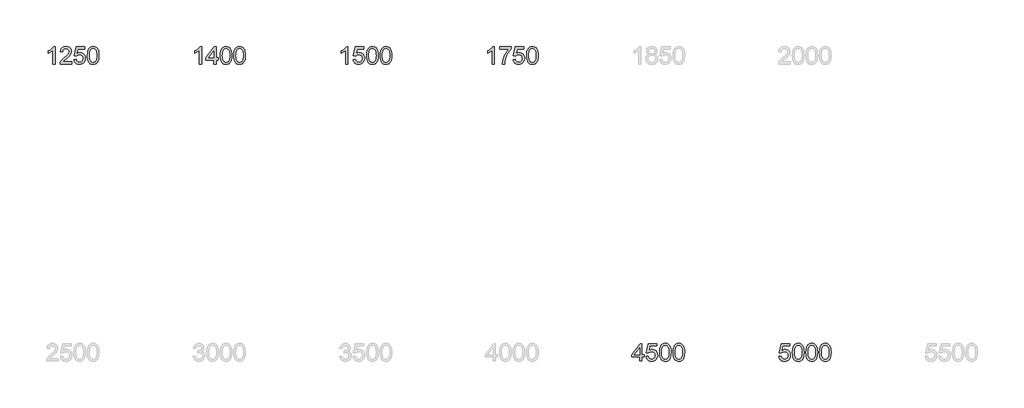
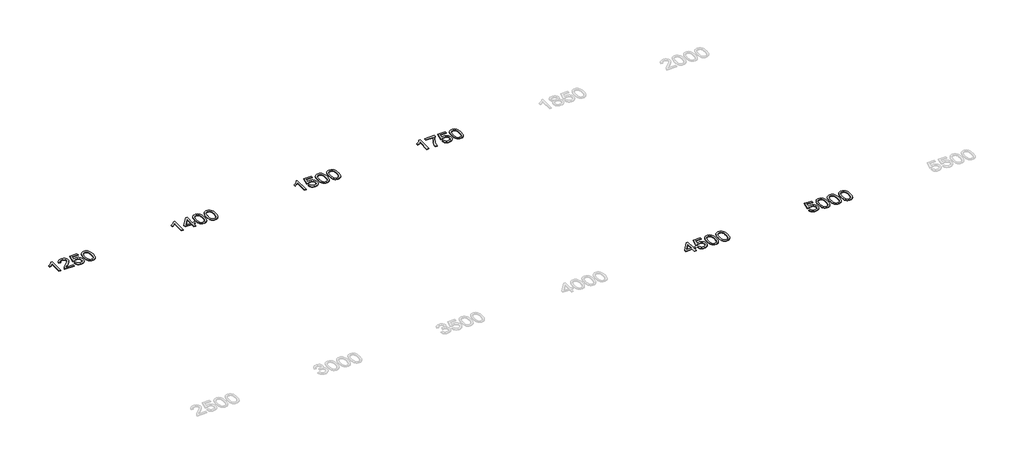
# One storey, part 2 of 8: 6 proxies.
"""IFC4 building model written with IfcOpenShell, lengths in millimetres."""

from ifc_helpers import new_model, si_unit, origin, origin_with_axes, place, context, project, spatial, polyline, outline, extrude, element, save

model = new_model("IFC4")

# Units and contexts
model_context = context("Model", 3, world=origin())
ifc_project = project(units=[si_unit("LENGTHUNIT", "METRE", prefix="MILLI")], contexts=[model_context])

# Site, building, storey
site = spatial("IfcSite", under=ifc_project)
building = spatial("IfcBuilding", under=site)
storey = spatial("IfcBuildingStorey", under=building, Name="Этаж 01", Elevation=0.0)

# Proxies
placement = place(None, origin())
element("IfcBuildingElementProxy", 1, Name="600 мм Arial", ObjectType="600 мм Arial", at=placement, inside=storey, context=model_context, shape_type="SweptSolid", body=[
    extrude(outline(polyline([(-27002.7378609, -23695.8930971), (-27078.0800935, -23695.8930971), (-27078.0800935, -23226.1813657), (-27109.5340041, -23251.6204057), (-27149.4492006, -23277.0226574), (-27191.3509598, -23299.2243358), (-27228.7645587, -23315.0616557), (-27228.7645587, -23243.8397015), (-27169.5907398, -23211.6500269), (-27118.3263838, -23173.3535112), (-27077.9145466, -23132.6289743), (-27051.2982843, -23093.1552362), (-27002.7378609, -23093.1552362), (-27002.7378609, -23695.8930971)])), origin_with_axes(), (0.0, 0.0, 1.0), 20.0),
    extrude(outline(polyline([(-26437.6711163, -23620.5508645), (-26437.6711163, -23695.8930971), (-26833.2178375, -23695.8930971), (-26831.5623685, -23669.3688053), (-26825.1244336, -23643.9481594), (-26806.5463929, -23603.3523813), (-26779.3599134, -23563.9706137), (-26740.0333281, -23522.7494361), (-26685.0349699, -23476.635428), (-26603.7330489, -23404.4201924), (-26554.9518964, -23351.1140913), (-26540.7240602, -23329.3354771), (-26530.5613201, -23307.8511686), (-26524.463676, -23286.6611657), (-26522.431128, -23265.7654684), (-26524.3487129, -23246.1067743), (-26530.1014676, -23228.0391698), (-26539.6893921, -23211.5626549), (-26553.1124864, -23196.6772297), (-26569.6257895, -23184.3485843), (-26588.4843402, -23175.5424091), (-26609.6881387, -23170.2587039), (-26633.2371849, -23168.4974689), (-26658.046227, -23170.2173172), (-26680.2341098, -23175.3768622), (-26699.8008334, -23183.9761038), (-26716.7463978, -23196.0150421), (-26730.4546007, -23211.0890068), (-26740.3092396, -23228.7933279), (-26746.3103147, -23249.1280051), (-26748.4578258, -23272.0930387), (-26823.8000584, -23262.6752596), (-26817.3207368, -23223.7809357), (-26805.5347174, -23189.7978364), (-26788.4420002, -23160.7259617), (-26766.0425852, -23136.5653117), (-26738.8515072, -23117.5734037), (-26707.3838011, -23104.0077551), (-26671.6394667, -23095.868366), (-26631.6185042, -23093.1552362), (-26591.2388567, -23096.1718686), (-26555.3013843, -23105.2217657), (-26523.806087, -23120.3049275), (-26496.7529647, -23141.421354), (-26475.0249344, -23167.0075468), (-26459.5049127, -23195.5000073), (-26450.1928997, -23226.8987356), (-26447.0888954, -23261.2037316), (-26450.4366215, -23297.2377731), (-26460.4798, -23332.6464151), (-26478.3036827, -23368.6620624), (-26504.9935214, -23406.5171197), (-26547.5390742, -23451.7114228), (-26612.9300988, -23509.7448076), (-26699.6030969, -23582.2175606), (-26733.5953932, -23620.5508645), (-26437.6711163, -23620.5508645)])), origin_with_axes(), (0.0, 0.0, 1.0), 20.0),
    extrude(outline(polyline([(-26362.3288837, -23535.7908528), (-26286.9866511, -23526.3730738), (-26281.3580566, -23550.5935046), (-26273.1542881, -23571.6041651), (-26262.3753456, -23589.4050551), (-26249.0212292, -23603.9961747), (-26233.1195299, -23615.3591299), (-26214.697839, -23623.4755264), (-26193.7561565, -23628.3453643), (-26170.2944822, -23629.9686436), (-26141.5996866, -23627.7107679), (-26116.2894053, -23620.9371406), (-26094.3636384, -23609.6477619), (-26075.8223859, -23593.8426317), (-26061.0795149, -23574.3034992), (-26050.5488928, -23551.8121137), (-26044.2305195, -23526.3684752), (-26042.1243951, -23497.9725837), (-26044.0971623, -23471.1355922), (-26050.0154639, -23447.2784448), (-26059.8792999, -23426.4011416), (-26073.6886703, -23408.5036825), (-26091.4895603, -23394.1470876), (-26113.3279553, -23383.892377), (-26139.2038551, -23377.7395507), (-26169.1172598, -23375.6886085), (-26205.666336, -23378.9627583), (-26235.2624426, -23388.7852076), (-26258.8988608, -23403.8315812), (-26277.568872, -23422.7775039), (-26352.9111046, -23413.3597248), (-26286.9866511, -23102.5730153), (-25995.0354997, -23102.5730153), (-25995.0354997, -23177.9152479), (-26226.0653927, -23177.9152479), (-26258.2918555, -23343.9036042), (-26231.7031843, -23324.8473168), (-26204.4707196, -23311.235683), (-26176.5944614, -23303.0687027), (-26148.0744097, -23300.3463759), (-26111.3827792, -23303.7216932), (-26077.6801899, -23313.8476451), (-26046.9666419, -23330.7242317), (-26019.242135, -23354.3514528), (-25996.290897, -23383.2853717), (-25979.8971556, -23416.0820516), (-25970.0609108, -23452.7414924), (-25966.7821625, -23493.2636942), (-25969.7344155, -23532.2959739), (-25978.5911745, -23568.6059268), (-25993.3524396, -23602.193553), (-26014.0182107, -23633.0588524), (-26045.3249685, -23664.6691128), (-26081.8556506, -23687.2478703), (-26123.610257, -23700.7951247), (-26170.5887878, -23705.3108762), (-26209.4693162, -23702.409207), (-26244.5882511, -23693.7041993), (-26275.9455927, -23679.1958531), (-26303.5413409, -23658.8841684), (-26326.5017759, -23633.7808208), (-26343.953178, -23604.8974856), (-26355.8955473, -23572.234163), (-26362.3288837, -23535.7908528)])), origin_with_axes(), (0.0, 0.0, 1.0), 20.0),
    extrude(outline(polyline([(-25900.8577089, -23399.380209), (-25895.3210849, -23302.9031558), (-25888.4003049, -23261.9900794), (-25878.7112128, -23225.9606365), (-25866.2951955, -23194.5205215), (-25851.1936396, -23167.3754288), (-25833.4065451, -23144.5253583), (-25812.9339121, -23125.9703102), (-25789.7067626, -23111.6137153), (-25763.6561188, -23101.3590047), (-25734.7819807, -23095.2061784), (-25703.0843483, -23093.1552362), (-25656.6576405, -23098.0112786), (-25615.0869751, -23112.5794056), (-25580.3221265, -23136.2894002), (-25554.3128695, -23168.5710453), (-25534.6679709, -23209.1484293), (-25518.996198, -23257.7456409), (-25508.7322903, -23319.4578456), (-25505.3109877, -23399.380209), (-25510.7924295, -23495.3054393), (-25517.6442316, -23536.0805599), (-25527.2367546, -23572.0640176), (-25539.556203, -23603.5179281), (-25554.588781, -23630.7044076), (-25572.3344887, -23653.6234559), (-25592.7933262, -23672.275073), (-25616.0480668, -23686.7282369), (-25642.181484, -23697.0519254), (-25671.1935779, -23703.2461385), (-25703.0843483, -23705.3108762), (-25744.5814374, -23701.7240268), (-25781.3696369, -23690.9634784), (-25813.4489469, -23673.0292311), (-25840.8193673, -23647.921285), (-25867.0861418, -23602.5338438), (-25885.8481235, -23545.9811841), (-25897.1053126, -23478.2633058), (-25900.8577089, -23399.380209)]), holes=[polyline([(-25825.5154763, -23399.2330562), (-25823.3081844, -23464.7298469), (-25816.6863084, -23517.746241), (-25805.6498486, -23558.2822383), (-25790.1988048, -23586.337839), (-25771.5103994, -23605.426316), (-25750.7618549, -23619.0609424), (-25727.9531712, -23627.2417183), (-25703.0843483, -23629.9686436), (-25678.2155255, -23627.2325213), (-25655.4068418, -23619.0241542), (-25634.6582972, -23605.3435426), (-25615.9698919, -23586.1906862), (-25600.5188481, -23558.0891003), (-25589.4823882, -23517.5623), (-25582.8605123, -23464.6102853), (-25580.6532203, -23399.2330562), (-25582.7869359, -23335.4699094), (-25589.1880826, -23283.3870159), (-25599.8566605, -23242.9843758), (-25614.7926695, -23214.2619891), (-25633.1683752, -23194.2400115), (-25654.156043, -23179.9385989), (-25677.755673, -23171.3577514), (-25703.9672651, -23168.4974689), (-25728.7073293, -23171.0174605), (-25751.1297369, -23178.5774355), (-25771.2344879, -23191.1773939), (-25789.0215824, -23208.8173355), (-25804.987661, -23240.0873051), (-25816.3920029, -23282.2465818), (-25823.234608, -23335.2951655), (-25825.5154763, -23399.2330562)])]), origin_with_axes(), (0.0, 0.0, 1.0), 20.0),
])
element("IfcBuildingElementProxy", 2, Name="600 мм Arial", ObjectType="600 мм Arial", at=placement, inside=storey, context=model_context, shape_type="SweptSolid", body=[
    extrude(outline(polyline([(-22002.7378609, -23695.8930971), (-22078.0800935, -23695.8930971), (-22078.0800935, -23226.1813657), (-22109.5340041, -23251.6204057), (-22149.4492006, -23277.0226574), (-22191.3509598, -23299.2243358), (-22228.7645587, -23315.0616557), (-22228.7645587, -23243.8397015), (-22169.5907398, -23211.6500269), (-22118.3263838, -23173.3535112), (-22077.9145466, -23132.6289743), (-22051.2982843, -23093.1552362), (-22002.7378609, -23093.1552362), (-22002.7378609, -23695.8930971)])), origin_with_axes(), (0.0, 0.0, 1.0), 20.0),
    extrude(outline(polyline([(-21578.9378025, -23695.8930971), (-21578.9378025, -23554.626411), (-21852.0533957, -23554.626411), (-21852.0533957, -23479.2841784), (-21560.1022443, -23102.5730153), (-21503.5955698, -23102.5730153), (-21503.5955698, -23479.2841784), (-21428.2533372, -23479.2841784), (-21428.2533372, -23554.626411), (-21503.5955698, -23554.626411), (-21503.5955698, -23695.8930971), (-21578.9378025, -23695.8930971)]), holes=[polyline([(-21578.9378025, -23479.2841784), (-21578.9378025, -23246.4884518), (-21759.3471329, -23479.2841784), (-21578.9378025, -23479.2841784)])]), origin_with_axes(), (0.0, 0.0, 1.0), 20.0),
    extrude(outline(polyline([(-21362.3288837, -23399.380209), (-21356.7922597, -23302.9031558), (-21349.8714796, -23261.9900794), (-21340.1823876, -23225.9606365), (-21327.7663702, -23194.5205215), (-21312.6648143, -23167.3754288), (-21294.8777199, -23144.5253583), (-21274.4050868, -23125.9703102), (-21251.1779374, -23111.6137153), (-21225.1272936, -23101.3590047), (-21196.2531555, -23095.2061784), (-21164.5555231, -23093.1552362), (-21118.1288153, -23098.0112786), (-21076.5581498, -23112.5794056), (-21041.7933013, -23136.2894002), (-21015.7840442, -23168.5710453), (-20996.1391457, -23209.1484293), (-20980.4673727, -23257.7456409), (-20970.203465, -23319.4578456), (-20966.7821625, -23399.380209), (-20972.2636042, -23495.3054393), (-20979.1154064, -23536.0805599), (-20988.7079294, -23572.0640176), (-21001.0273777, -23603.5179281), (-21016.0599557, -23630.7044076), (-21033.8056635, -23653.6234559), (-21054.2645009, -23672.275073), (-21077.5192416, -23686.7282369), (-21103.6526588, -23697.0519254), (-21132.6647526, -23703.2461385), (-21164.5555231, -23705.3108762), (-21206.0526121, -23701.7240268), (-21242.8408117, -23690.9634784), (-21274.9201216, -23673.0292311), (-21302.2905421, -23647.921285), (-21328.5573165, -23602.5338438), (-21347.3192983, -23545.9811841), (-21358.5764873, -23478.2633058), (-21362.3288837, -23399.380209)]), holes=[polyline([(-21286.9866511, -23399.2330562), (-21284.7793591, -23464.7298469), (-21278.1574832, -23517.746241), (-21267.1210233, -23558.2822383), (-21251.6699795, -23586.337839), (-21232.9815742, -23605.426316), (-21212.2330297, -23619.0609424), (-21189.424346, -23627.2417183), (-21164.5555231, -23629.9686436), (-21139.6867002, -23627.2325213), (-21116.8780165, -23619.0241542), (-21096.129472, -23605.3435426), (-21077.4410666, -23586.1906862), (-21061.9900228, -23558.0891003), (-21050.953563, -23517.5623), (-21044.3316871, -23464.6102853), (-21042.1243951, -23399.2330562), (-21044.2581107, -23335.4699094), (-21050.6592574, -23283.3870159), (-21061.3278352, -23242.9843758), (-21076.2638442, -23214.2619891), (-21094.6395499, -23194.2400115), (-21115.6272177, -23179.9385989), (-21139.2268477, -23171.3577514), (-21165.4384399, -23168.4974689), (-21190.1785041, -23171.0174605), (-21212.6009117, -23178.5774355), (-21232.7056627, -23191.1773939), (-21250.4927572, -23208.8173355), (-21266.4588358, -23240.0873051), (-21277.8631776, -23282.2465818), (-21284.7057827, -23335.2951655), (-21286.9866511, -23399.2330562)])]), origin_with_axes(), (0.0, 0.0, 1.0), 20.0),
    extrude(outline(polyline([(-20900.8577089, -23399.380209), (-20895.3210849, -23302.9031558), (-20888.4003049, -23261.9900794), (-20878.7112128, -23225.9606365), (-20866.2951955, -23194.5205215), (-20851.1936396, -23167.3754288), (-20833.4065451, -23144.5253583), (-20812.9339121, -23125.9703102), (-20789.7067626, -23111.6137153), (-20763.6561188, -23101.3590047), (-20734.7819807, -23095.2061784), (-20703.0843483, -23093.1552362), (-20656.6576405, -23098.0112786), (-20615.0869751, -23112.5794056), (-20580.3221265, -23136.2894002), (-20554.3128695, -23168.5710453), (-20534.6679709, -23209.1484293), (-20518.996198, -23257.7456409), (-20508.7322903, -23319.4578456), (-20505.3109877, -23399.380209), (-20510.7924295, -23495.3054393), (-20517.6442316, -23536.0805599), (-20527.2367546, -23572.0640176), (-20539.556203, -23603.5179281), (-20554.588781, -23630.7044076), (-20572.3344887, -23653.6234559), (-20592.7933262, -23672.275073), (-20616.0480668, -23686.7282369), (-20642.181484, -23697.0519254), (-20671.1935779, -23703.2461385), (-20703.0843483, -23705.3108762), (-20744.5814374, -23701.7240268), (-20781.3696369, -23690.9634784), (-20813.4489469, -23673.0292311), (-20840.8193673, -23647.921285), (-20867.0861418, -23602.5338438), (-20885.8481235, -23545.9811841), (-20897.1053126, -23478.2633058), (-20900.8577089, -23399.380209)]), holes=[polyline([(-20825.5154763, -23399.2330562), (-20823.3081844, -23464.7298469), (-20816.6863084, -23517.746241), (-20805.6498486, -23558.2822383), (-20790.1988048, -23586.337839), (-20771.5103994, -23605.426316), (-20750.7618549, -23619.0609424), (-20727.9531712, -23627.2417183), (-20703.0843483, -23629.9686436), (-20678.2155255, -23627.2325213), (-20655.4068418, -23619.0241542), (-20634.6582972, -23605.3435426), (-20615.9698919, -23586.1906862), (-20600.5188481, -23558.0891003), (-20589.4823882, -23517.5623), (-20582.8605123, -23464.6102853), (-20580.6532203, -23399.2330562), (-20582.7869359, -23335.4699094), (-20589.1880826, -23283.3870159), (-20599.8566605, -23242.9843758), (-20614.7926695, -23214.2619891), (-20633.1683752, -23194.2400115), (-20654.156043, -23179.9385989), (-20677.755673, -23171.3577514), (-20703.9672651, -23168.4974689), (-20728.7073293, -23171.0174605), (-20751.1297369, -23178.5774355), (-20771.2344879, -23191.1773939), (-20789.0215824, -23208.8173355), (-20804.987661, -23240.0873051), (-20816.3920029, -23282.2465818), (-20823.234608, -23335.2951655), (-20825.5154763, -23399.2330562)])]), origin_with_axes(), (0.0, 0.0, 1.0), 20.0),
])
element("IfcBuildingElementProxy", 3, Name="600 мм Arial", ObjectType="600 мм Arial", at=placement, inside=storey, context=model_context, shape_type="SweptSolid", body=[
    extrude(outline(polyline([(-17002.7378609, -23695.8930971), (-17078.0800935, -23695.8930971), (-17078.0800935, -23226.1813657), (-17109.5340041, -23251.6204057), (-17149.4492006, -23277.0226574), (-17191.3509598, -23299.2243358), (-17228.7645587, -23315.0616557), (-17228.7645587, -23243.8397015), (-17169.5907398, -23211.6500269), (-17118.3263838, -23173.3535112), (-17077.9145466, -23132.6289743), (-17051.2982843, -23093.1552362), (-17002.7378609, -23093.1552362), (-17002.7378609, -23695.8930971)])), origin_with_axes(), (0.0, 0.0, 1.0), 20.0),
    extrude(outline(polyline([(-16823.8000584, -23535.7908528), (-16748.4578258, -23526.3730738), (-16742.8292313, -23550.5935046), (-16734.6254628, -23571.6041651), (-16723.8465204, -23589.4050551), (-16710.4924039, -23603.9961747), (-16694.5907047, -23615.3591299), (-16676.1690138, -23623.4755264), (-16655.2273312, -23628.3453643), (-16631.765657, -23629.9686436), (-16603.0708613, -23627.7107679), (-16577.7605801, -23620.9371406), (-16555.8348132, -23609.6477619), (-16537.2935606, -23593.8426317), (-16522.5506896, -23574.3034992), (-16512.0200675, -23551.8121137), (-16505.7016943, -23526.3684752), (-16503.5955698, -23497.9725837), (-16505.568337, -23471.1355922), (-16511.4866386, -23447.2784448), (-16521.3504746, -23426.4011416), (-16535.159845, -23408.5036825), (-16552.9607351, -23394.1470876), (-16574.79913, -23383.892377), (-16600.6750298, -23377.7395507), (-16630.5884346, -23375.6886085), (-16667.1375108, -23378.9627583), (-16696.7336173, -23388.7852076), (-16720.3700355, -23403.8315812), (-16739.0400468, -23422.7775039), (-16814.3822794, -23413.3597248), (-16748.4578258, -23102.5730153), (-16456.5066745, -23102.5730153), (-16456.5066745, -23177.9152479), (-16687.5365674, -23177.9152479), (-16719.7630302, -23343.9036042), (-16693.174359, -23324.8473168), (-16665.9418943, -23311.235683), (-16638.0656361, -23303.0687027), (-16609.5455845, -23300.3463759), (-16572.853954, -23303.7216932), (-16539.1513647, -23313.8476451), (-16508.4378166, -23330.7242317), (-16480.7133097, -23354.3514528), (-16457.7620718, -23383.2853717), (-16441.3683304, -23416.0820516), (-16431.5320855, -23452.7414924), (-16428.2533372, -23493.2636942), (-16431.2055902, -23532.2959739), (-16440.0623493, -23568.6059268), (-16454.8236143, -23602.193553), (-16475.4893854, -23633.0588524), (-16506.7961432, -23664.6691128), (-16543.3268253, -23687.2478703), (-16585.0814318, -23700.7951247), (-16632.0599626, -23705.3108762), (-16670.9404909, -23702.409207), (-16706.0594259, -23693.7041993), (-16737.4167675, -23679.1958531), (-16765.0125156, -23658.8841684), (-16787.9729506, -23633.7808208), (-16805.4243528, -23604.8974856), (-16817.3667221, -23572.234163), (-16823.8000584, -23535.7908528)])), origin_with_axes(), (0.0, 0.0, 1.0), 20.0),
    extrude(outline(polyline([(-16362.3288837, -23399.380209), (-16356.7922597, -23302.9031558), (-16349.8714796, -23261.9900794), (-16340.1823876, -23225.9606365), (-16327.7663702, -23194.5205215), (-16312.6648143, -23167.3754288), (-16294.8777199, -23144.5253583), (-16274.4050868, -23125.9703102), (-16251.1779374, -23111.6137153), (-16225.1272936, -23101.3590047), (-16196.2531555, -23095.2061784), (-16164.5555231, -23093.1552362), (-16118.1288153, -23098.0112786), (-16076.5581498, -23112.5794056), (-16041.7933013, -23136.2894002), (-16015.7840442, -23168.5710453), (-15996.1391457, -23209.1484293), (-15980.4673727, -23257.7456409), (-15970.203465, -23319.4578456), (-15966.7821625, -23399.380209), (-15972.2636042, -23495.3054393), (-15979.1154064, -23536.0805599), (-15988.7079294, -23572.0640176), (-16001.0273777, -23603.5179281), (-16016.0599557, -23630.7044076), (-16033.8056635, -23653.6234559), (-16054.2645009, -23672.275073), (-16077.5192416, -23686.7282369), (-16103.6526588, -23697.0519254), (-16132.6647526, -23703.2461385), (-16164.5555231, -23705.3108762), (-16206.0526121, -23701.7240268), (-16242.8408117, -23690.9634784), (-16274.9201216, -23673.0292311), (-16302.2905421, -23647.921285), (-16328.5573165, -23602.5338438), (-16347.3192983, -23545.9811841), (-16358.5764873, -23478.2633058), (-16362.3288837, -23399.380209)]), holes=[polyline([(-16286.9866511, -23399.2330562), (-16284.7793591, -23464.7298469), (-16278.1574832, -23517.746241), (-16267.1210233, -23558.2822383), (-16251.6699795, -23586.337839), (-16232.9815742, -23605.426316), (-16212.2330297, -23619.0609424), (-16189.424346, -23627.2417183), (-16164.5555231, -23629.9686436), (-16139.6867002, -23627.2325213), (-16116.8780165, -23619.0241542), (-16096.129472, -23605.3435426), (-16077.4410666, -23586.1906862), (-16061.9900228, -23558.0891003), (-16050.953563, -23517.5623), (-16044.3316871, -23464.6102853), (-16042.1243951, -23399.2330562), (-16044.2581107, -23335.4699094), (-16050.6592574, -23283.3870159), (-16061.3278352, -23242.9843758), (-16076.2638442, -23214.2619891), (-16094.6395499, -23194.2400115), (-16115.6272177, -23179.9385989), (-16139.2268477, -23171.3577514), (-16165.4384399, -23168.4974689), (-16190.1785041, -23171.0174605), (-16212.6009117, -23178.5774355), (-16232.7056627, -23191.1773939), (-16250.4927572, -23208.8173355), (-16266.4588358, -23240.0873051), (-16277.8631776, -23282.2465818), (-16284.7057827, -23335.2951655), (-16286.9866511, -23399.2330562)])]), origin_with_axes(), (0.0, 0.0, 1.0), 20.0),
    extrude(outline(polyline([(-15900.8577089, -23399.380209), (-15895.3210849, -23302.9031558), (-15888.4003049, -23261.9900794), (-15878.7112128, -23225.9606365), (-15866.2951955, -23194.5205215), (-15851.1936396, -23167.3754288), (-15833.4065451, -23144.5253583), (-15812.9339121, -23125.9703102), (-15789.7067626, -23111.6137153), (-15763.6561188, -23101.3590047), (-15734.7819807, -23095.2061784), (-15703.0843483, -23093.1552362), (-15656.6576405, -23098.0112786), (-15615.0869751, -23112.5794056), (-15580.3221265, -23136.2894002), (-15554.3128695, -23168.5710453), (-15534.6679709, -23209.1484293), (-15518.996198, -23257.7456409), (-15508.7322903, -23319.4578456), (-15505.3109877, -23399.380209), (-15510.7924295, -23495.3054393), (-15517.6442316, -23536.0805599), (-15527.2367546, -23572.0640176), (-15539.556203, -23603.5179281), (-15554.588781, -23630.7044076), (-15572.3344887, -23653.6234559), (-15592.7933262, -23672.275073), (-15616.0480668, -23686.7282369), (-15642.181484, -23697.0519254), (-15671.1935779, -23703.2461385), (-15703.0843483, -23705.3108762), (-15744.5814374, -23701.7240268), (-15781.3696369, -23690.9634784), (-15813.4489469, -23673.0292311), (-15840.8193673, -23647.921285), (-15867.0861418, -23602.5338438), (-15885.8481235, -23545.9811841), (-15897.1053126, -23478.2633058), (-15900.8577089, -23399.380209)]), holes=[polyline([(-15825.5154763, -23399.2330562), (-15823.3081844, -23464.7298469), (-15816.6863084, -23517.746241), (-15805.6498486, -23558.2822383), (-15790.1988048, -23586.337839), (-15771.5103994, -23605.426316), (-15750.7618549, -23619.0609424), (-15727.9531712, -23627.2417183), (-15703.0843483, -23629.9686436), (-15678.2155255, -23627.2325213), (-15655.4068418, -23619.0241542), (-15634.6582972, -23605.3435426), (-15615.9698919, -23586.1906862), (-15600.5188481, -23558.0891003), (-15589.4823882, -23517.5623), (-15582.8605123, -23464.6102853), (-15580.6532203, -23399.2330562), (-15582.7869359, -23335.4699094), (-15589.1880826, -23283.3870159), (-15599.8566605, -23242.9843758), (-15614.7926695, -23214.2619891), (-15633.1683752, -23194.2400115), (-15654.156043, -23179.9385989), (-15677.755673, -23171.3577514), (-15703.9672651, -23168.4974689), (-15728.7073293, -23171.0174605), (-15751.1297369, -23178.5774355), (-15771.2344879, -23191.1773939), (-15789.0215824, -23208.8173355), (-15804.987661, -23240.0873051), (-15816.3920029, -23282.2465818), (-15823.234608, -23335.2951655), (-15825.5154763, -23399.2330562)])]), origin_with_axes(), (0.0, 0.0, 1.0), 20.0),
])
element("IfcBuildingElementProxy", 4, Name="600 мм Arial", ObjectType="600 мм Arial", at=placement, inside=storey, context=model_context, shape_type="SweptSolid", body=[
    extrude(outline(polyline([(-12002.7378609, -23695.8930971), (-12078.0800935, -23695.8930971), (-12078.0800935, -23226.1813657), (-12109.5340041, -23251.6204057), (-12149.4492006, -23277.0226574), (-12191.3509598, -23299.2243358), (-12228.7645587, -23315.0616557), (-12228.7645587, -23243.8397015), (-12169.5907398, -23211.6500269), (-12118.3263838, -23173.3535112), (-12077.9145466, -23132.6289743), (-12051.2982843, -23093.1552362), (-12002.7378609, -23093.1552362), (-12002.7378609, -23695.8930971)])), origin_with_axes(), (0.0, 0.0, 1.0), 20.0),
    extrude(outline(polyline([(-11823.8000584, -23177.9152479), (-11823.8000584, -23102.5730153), (-11428.2533372, -23102.5730153), (-11428.2533372, -23163.4942737), (-11484.631253, -23234.8449867), (-11540.4573458, -23325.5830808), (-11589.6983508, -23427.4312112), (-11609.5869712, -23479.4175356), (-11626.3210034, -23532.1120329), (-11644.2736448, -23610.4341097), (-11654.2800351, -23695.8930971), (-11729.6222677, -23695.8930971), (-11721.4736815, -23618.233208), (-11699.6766733, -23525.9316154), (-11683.8071637, -23476.5664501), (-11664.8198542, -23428.0933987), (-11642.7147448, -23380.5124612), (-11617.4918355, -23333.8236375), (-11562.2359599, -23248.6037733), (-11503.5955698, -23177.9152479), (-11823.8000584, -23177.9152479)])), origin_with_axes(), (0.0, 0.0, 1.0), 20.0),
    extrude(outline(polyline([(-11362.3288837, -23535.7908528), (-11286.9866511, -23526.3730738), (-11281.3580566, -23550.5935046), (-11273.1542881, -23571.6041651), (-11262.3753456, -23589.4050551), (-11249.0212292, -23603.9961747), (-11233.1195299, -23615.3591299), (-11214.697839, -23623.4755264), (-11193.7561565, -23628.3453643), (-11170.2944822, -23629.9686436), (-11141.5996866, -23627.7107679), (-11116.2894053, -23620.9371406), (-11094.3636384, -23609.6477619), (-11075.8223859, -23593.8426317), (-11061.0795149, -23574.3034992), (-11050.5488928, -23551.8121137), (-11044.2305195, -23526.3684752), (-11042.1243951, -23497.9725837), (-11044.0971623, -23471.1355922), (-11050.0154639, -23447.2784448), (-11059.8792999, -23426.4011416), (-11073.6886703, -23408.5036825), (-11091.4895603, -23394.1470876), (-11113.3279553, -23383.892377), (-11139.2038551, -23377.7395507), (-11169.1172598, -23375.6886085), (-11205.666336, -23378.9627583), (-11235.2624426, -23388.7852076), (-11258.8988608, -23403.8315812), (-11277.568872, -23422.7775039), (-11352.9111046, -23413.3597248), (-11286.9866511, -23102.5730153), (-10995.0354997, -23102.5730153), (-10995.0354997, -23177.9152479), (-11226.0653927, -23177.9152479), (-11258.2918555, -23343.9036042), (-11231.7031843, -23324.8473168), (-11204.4707196, -23311.235683), (-11176.5944614, -23303.0687027), (-11148.0744097, -23300.3463759), (-11111.3827792, -23303.7216932), (-11077.6801899, -23313.8476451), (-11046.9666419, -23330.7242317), (-11019.242135, -23354.3514528), (-10996.290897, -23383.2853717), (-10979.8971556, -23416.0820516), (-10970.0609108, -23452.7414924), (-10966.7821625, -23493.2636942), (-10969.7344155, -23532.2959739), (-10978.5911745, -23568.6059268), (-10993.3524396, -23602.193553), (-11014.0182107, -23633.0588524), (-11045.3249685, -23664.6691128), (-11081.8556506, -23687.2478703), (-11123.610257, -23700.7951247), (-11170.5887878, -23705.3108762), (-11209.4693162, -23702.409207), (-11244.5882511, -23693.7041993), (-11275.9455927, -23679.1958531), (-11303.5413409, -23658.8841684), (-11326.5017759, -23633.7808208), (-11343.953178, -23604.8974856), (-11355.8955473, -23572.234163), (-11362.3288837, -23535.7908528)])), origin_with_axes(), (0.0, 0.0, 1.0), 20.0),
    extrude(outline(polyline([(-10900.8577089, -23399.380209), (-10895.3210849, -23302.9031558), (-10888.4003049, -23261.9900794), (-10878.7112128, -23225.9606365), (-10866.2951955, -23194.5205215), (-10851.1936396, -23167.3754288), (-10833.4065451, -23144.5253583), (-10812.9339121, -23125.9703102), (-10789.7067626, -23111.6137153), (-10763.6561188, -23101.3590047), (-10734.7819807, -23095.2061784), (-10703.0843483, -23093.1552362), (-10656.6576405, -23098.0112786), (-10615.0869751, -23112.5794056), (-10580.3221265, -23136.2894002), (-10554.3128695, -23168.5710453), (-10534.6679709, -23209.1484293), (-10518.996198, -23257.7456409), (-10508.7322903, -23319.4578456), (-10505.3109877, -23399.380209), (-10510.7924295, -23495.3054393), (-10517.6442316, -23536.0805599), (-10527.2367546, -23572.0640176), (-10539.556203, -23603.5179281), (-10554.588781, -23630.7044076), (-10572.3344887, -23653.6234559), (-10592.7933262, -23672.275073), (-10616.0480668, -23686.7282369), (-10642.181484, -23697.0519254), (-10671.1935779, -23703.2461385), (-10703.0843483, -23705.3108762), (-10744.5814374, -23701.7240268), (-10781.3696369, -23690.9634784), (-10813.4489469, -23673.0292311), (-10840.8193673, -23647.921285), (-10867.0861418, -23602.5338438), (-10885.8481235, -23545.9811841), (-10897.1053126, -23478.2633058), (-10900.8577089, -23399.380209)]), holes=[polyline([(-10825.5154763, -23399.2330562), (-10823.3081844, -23464.7298469), (-10816.6863084, -23517.746241), (-10805.6498486, -23558.2822383), (-10790.1988048, -23586.337839), (-10771.5103994, -23605.426316), (-10750.7618549, -23619.0609424), (-10727.9531712, -23627.2417183), (-10703.0843483, -23629.9686436), (-10678.2155255, -23627.2325213), (-10655.4068418, -23619.0241542), (-10634.6582972, -23605.3435426), (-10615.9698919, -23586.1906862), (-10600.5188481, -23558.0891003), (-10589.4823882, -23517.5623), (-10582.8605123, -23464.6102853), (-10580.6532203, -23399.2330562), (-10582.7869359, -23335.4699094), (-10589.1880826, -23283.3870159), (-10599.8566605, -23242.9843758), (-10614.7926695, -23214.2619891), (-10633.1683752, -23194.2400115), (-10654.156043, -23179.9385989), (-10677.755673, -23171.3577514), (-10703.9672651, -23168.4974689), (-10728.7073293, -23171.0174605), (-10751.1297369, -23178.5774355), (-10771.2344879, -23191.1773939), (-10789.0215824, -23208.8173355), (-10804.987661, -23240.0873051), (-10816.3920029, -23282.2465818), (-10823.234608, -23335.2951655), (-10825.5154763, -23399.2330562)])]), origin_with_axes(), (0.0, 0.0, 1.0), 20.0),
])
element("IfcBuildingElementProxy", 5, Name="600 мм Arial", ObjectType="600 мм Arial", at=placement, inside=storey, context=model_context, shape_type="SweptSolid", body=[
    extrude(outline(polyline([(-7040.4089772, -33848.3691069), (-7040.4089772, -33707.1024208), (-7313.5245704, -33707.1024208), (-7313.5245704, -33631.7601882), (-7021.5734191, -33255.0490251), (-6965.0667446, -33255.0490251), (-6965.0667446, -33631.7601882), (-6889.724512, -33631.7601882), (-6889.724512, -33707.1024208), (-6965.0667446, -33707.1024208), (-6965.0667446, -33848.3691069), (-7040.4089772, -33848.3691069)]), holes=[polyline([(-7040.4089772, -33631.7601882), (-7040.4089772, -33398.9644616), (-7220.8183076, -33631.7601882), (-7040.4089772, -33631.7601882)])]), origin_with_axes(), (0.0, 0.0, 1.0), 20.0),
    extrude(outline(polyline([(-6823.8000584, -33688.2668626), (-6748.4578258, -33678.8490835), (-6742.8292313, -33703.0695144), (-6734.6254628, -33724.0801749), (-6723.8465204, -33741.8810649), (-6710.4924039, -33756.4721845), (-6694.5907047, -33767.8351397), (-6676.1690138, -33775.9515362), (-6655.2273312, -33780.8213741), (-6631.765657, -33782.4446534), (-6603.0708613, -33780.1867776), (-6577.7605801, -33773.4131504), (-6555.8348132, -33762.1237717), (-6537.2935606, -33746.3186415), (-6522.5506896, -33726.779509), (-6512.0200675, -33704.2881235), (-6505.7016943, -33678.844485), (-6503.5955698, -33650.4485935), (-6505.568337, -33623.611602), (-6511.4866386, -33599.7544546), (-6521.3504746, -33578.8771514), (-6535.159845, -33560.9796923), (-6552.9607351, -33546.6230974), (-6574.79913, -33536.3683868), (-6600.6750298, -33530.2155604), (-6630.5884346, -33528.1646183), (-6667.1375108, -33531.4387681), (-6696.7336173, -33541.2612174), (-6720.3700355, -33556.307591), (-6739.0400468, -33575.2535137), (-6814.3822794, -33565.8357346), (-6748.4578258, -33255.0490251), (-6456.5066745, -33255.0490251), (-6456.5066745, -33330.3912577), (-6687.5365674, -33330.3912577), (-6719.7630302, -33496.3796139), (-6693.174359, -33477.3233266), (-6665.9418943, -33463.7116928), (-6638.0656361, -33455.5447125), (-6609.5455845, -33452.8223857), (-6572.853954, -33456.197703), (-6539.1513647, -33466.3236549), (-6508.4378166, -33483.2002415), (-6480.7133097, -33506.8274626), (-6457.7620718, -33535.7613815), (-6441.3683304, -33568.5580614), (-6431.5320855, -33605.2175022), (-6428.2533372, -33645.739704), (-6431.2055902, -33684.7719837), (-6440.0623493, -33721.0819366), (-6454.8236143, -33754.6695628), (-6475.4893854, -33785.5348622), (-6506.7961432, -33817.1451226), (-6543.3268253, -33839.72388), (-6585.0814318, -33853.2711345), (-6632.0599626, -33857.786886), (-6670.9404909, -33854.8852168), (-6706.0594259, -33846.1802091), (-6737.4167675, -33831.6718629), (-6765.0125156, -33811.3601782), (-6787.9729506, -33786.2568306), (-6805.4243528, -33757.3734954), (-6817.3667221, -33724.7101728), (-6823.8000584, -33688.2668626)])), origin_with_axes(), (0.0, 0.0, 1.0), 20.0),
    extrude(outline(polyline([(-6362.3288837, -33551.8562188), (-6356.7922597, -33455.3791656), (-6349.8714796, -33414.4660892), (-6340.1823876, -33378.4366463), (-6327.7663702, -33346.9965313), (-6312.6648143, -33319.8514386), (-6294.8777199, -33297.0013681), (-6274.4050868, -33278.44632), (-6251.1779374, -33264.0897251), (-6225.1272936, -33253.8350145), (-6196.2531555, -33247.6821882), (-6164.5555231, -33245.631246), (-6118.1288153, -33250.4872884), (-6076.5581498, -33265.0554154), (-6041.7933013, -33288.76541), (-6015.7840442, -33321.047055), (-5996.1391457, -33361.6244391), (-5980.4673727, -33410.2216507), (-5970.203465, -33471.9338554), (-5966.7821625, -33551.8562188), (-5972.2636042, -33647.7814491), (-5979.1154064, -33688.5565697), (-5988.7079294, -33724.5400273), (-6001.0273777, -33755.9939379), (-6016.0599557, -33783.1804174), (-6033.8056635, -33806.0994657), (-6054.2645009, -33824.7510828), (-6077.5192416, -33839.2042467), (-6103.6526588, -33849.5279352), (-6132.6647526, -33855.7221483), (-6164.5555231, -33857.786886), (-6206.0526121, -33854.2000365), (-6242.8408117, -33843.4394882), (-6274.9201216, -33825.5052409), (-6302.2905421, -33800.3972948), (-6328.5573165, -33755.0098536), (-6347.3192983, -33698.4571939), (-6358.5764873, -33630.7393156), (-6362.3288837, -33551.8562188)]), holes=[polyline([(-6286.9866511, -33551.709066), (-6284.7793591, -33617.2058567), (-6278.1574832, -33670.2222508), (-6267.1210233, -33710.7582481), (-6251.6699795, -33738.8138488), (-6232.9815742, -33757.9023258), (-6212.2330297, -33771.5369522), (-6189.424346, -33779.7177281), (-6164.5555231, -33782.4446534), (-6139.6867002, -33779.7085311), (-6116.8780165, -33771.500164), (-6096.129472, -33757.8195523), (-6077.4410666, -33738.666696), (-6061.9900228, -33710.5651101), (-6050.953563, -33670.0383098), (-6044.3316871, -33617.0862951), (-6042.1243951, -33551.709066), (-6044.2581107, -33487.9459192), (-6050.6592574, -33435.8630257), (-6061.3278352, -33395.4603856), (-6076.2638442, -33366.7379988), (-6094.6395499, -33346.7160213), (-6115.6272177, -33332.4146087), (-6139.2268477, -33323.8337612), (-6165.4384399, -33320.9734786), (-6190.1785041, -33323.4934703), (-6212.6009117, -33331.0534453), (-6232.7056627, -33343.6534036), (-6250.4927572, -33361.2933453), (-6266.4588358, -33392.5633149), (-6277.8631776, -33434.7225915), (-6284.7057827, -33487.7711753), (-6286.9866511, -33551.709066)])]), origin_with_axes(), (0.0, 0.0, 1.0), 20.0),
    extrude(outline(polyline([(-5900.8577089, -33551.8562188), (-5895.3210849, -33455.3791656), (-5888.4003049, -33414.4660892), (-5878.7112128, -33378.4366463), (-5866.2951955, -33346.9965313), (-5851.1936396, -33319.8514386), (-5833.4065451, -33297.0013681), (-5812.9339121, -33278.44632), (-5789.7067626, -33264.0897251), (-5763.6561188, -33253.8350145), (-5734.7819807, -33247.6821882), (-5703.0843483, -33245.631246), (-5656.6576405, -33250.4872884), (-5615.0869751, -33265.0554154), (-5580.3221265, -33288.76541), (-5554.3128695, -33321.047055), (-5534.6679709, -33361.6244391), (-5518.996198, -33410.2216507), (-5508.7322903, -33471.9338554), (-5505.3109877, -33551.8562188), (-5510.7924295, -33647.7814491), (-5517.6442316, -33688.5565697), (-5527.2367546, -33724.5400273), (-5539.556203, -33755.9939379), (-5554.588781, -33783.1804174), (-5572.3344887, -33806.0994657), (-5592.7933262, -33824.7510828), (-5616.0480668, -33839.2042467), (-5642.181484, -33849.5279352), (-5671.1935779, -33855.7221483), (-5703.0843483, -33857.786886), (-5744.5814374, -33854.2000365), (-5781.3696369, -33843.4394882), (-5813.4489469, -33825.5052409), (-5840.8193673, -33800.3972948), (-5867.0861418, -33755.0098536), (-5885.8481235, -33698.4571939), (-5897.1053126, -33630.7393156), (-5900.8577089, -33551.8562188)]), holes=[polyline([(-5825.5154763, -33551.709066), (-5823.3081844, -33617.2058567), (-5816.6863084, -33670.2222508), (-5805.6498486, -33710.7582481), (-5790.1988048, -33738.8138488), (-5771.5103994, -33757.9023258), (-5750.7618549, -33771.5369522), (-5727.9531712, -33779.7177281), (-5703.0843483, -33782.4446534), (-5678.2155255, -33779.7085311), (-5655.4068418, -33771.500164), (-5634.6582972, -33757.8195523), (-5615.9698919, -33738.666696), (-5600.5188481, -33710.5651101), (-5589.4823882, -33670.0383098), (-5582.8605123, -33617.0862951), (-5580.6532203, -33551.709066), (-5582.7869359, -33487.9459192), (-5589.1880826, -33435.8630257), (-5599.8566605, -33395.4603856), (-5614.7926695, -33366.7379988), (-5633.1683752, -33346.7160213), (-5654.156043, -33332.4146087), (-5677.755673, -33323.8337612), (-5703.9672651, -33320.9734786), (-5728.7073293, -33323.4934703), (-5751.1297369, -33331.0534453), (-5771.2344879, -33343.6534036), (-5789.0215824, -33361.2933453), (-5804.987661, -33392.5633149), (-5816.3920029, -33434.7225915), (-5823.234608, -33487.7711753), (-5825.5154763, -33551.709066)])]), origin_with_axes(), (0.0, 0.0, 1.0), 20.0),
])
element("IfcBuildingElementProxy", 6, Name="600 мм Arial", ObjectType="600 мм Arial", at=placement, inside=storey, context=model_context, shape_type="SweptSolid", body=[
    extrude(outline(polyline([(-2285.2712332, -33688.2668626), (-2209.9290006, -33678.8490835), (-2204.3004061, -33703.0695144), (-2196.0966376, -33724.0801749), (-2185.3176951, -33741.8810649), (-2171.9635787, -33756.4721845), (-2156.0618794, -33767.8351397), (-2137.6401885, -33775.9515362), (-2116.698506, -33780.8213741), (-2093.2368317, -33782.4446534), (-2064.5420361, -33780.1867776), (-2039.2317548, -33773.4131504), (-2017.3059879, -33762.1237717), (-1998.7647353, -33746.3186415), (-1984.0218644, -33726.779509), (-1973.4912423, -33704.2881235), (-1967.172869, -33678.844485), (-1965.0667446, -33650.4485935), (-1967.0395118, -33623.611602), (-1972.9578134, -33599.7544546), (-1982.8216494, -33578.8771514), (-1996.6310198, -33560.9796923), (-2014.4319098, -33546.6230974), (-2036.2703048, -33536.3683868), (-2062.1462046, -33530.2155604), (-2092.0596093, -33528.1646183), (-2128.6086855, -33531.4387681), (-2158.2047921, -33541.2612174), (-2181.8412102, -33556.307591), (-2200.5112215, -33575.2535137), (-2275.8534541, -33565.8357346), (-2209.9290006, -33255.0490251), (-1917.9778492, -33255.0490251), (-1917.9778492, -33330.3912577), (-2149.0077422, -33330.3912577), (-2181.234205, -33496.3796139), (-2154.6455338, -33477.3233266), (-2127.4130691, -33463.7116928), (-2099.5368109, -33455.5447125), (-2071.0167592, -33452.8223857), (-2034.3251287, -33456.197703), (-2000.6225394, -33466.3236549), (-1969.9089914, -33483.2002415), (-1942.1844845, -33506.8274626), (-1919.2332465, -33535.7613815), (-1902.8395051, -33568.5580614), (-1893.0032603, -33605.2175022), (-1889.724512, -33645.739704), (-1892.676765, -33684.7719837), (-1901.533524, -33721.0819366), (-1916.2947891, -33754.6695628), (-1936.9605602, -33785.5348622), (-1968.2673179, -33817.1451226), (-2004.7980001, -33839.72388), (-2046.5526065, -33853.2711345), (-2093.5311373, -33857.786886), (-2132.4116657, -33854.8852168), (-2167.5306006, -33846.1802091), (-2198.8879422, -33831.6718629), (-2226.4836904, -33811.3601782), (-2249.4441254, -33786.2568306), (-2266.8955275, -33757.3734954), (-2278.8378968, -33724.7101728), (-2285.2712332, -33688.2668626)])), origin_with_axes(), (0.0, 0.0, 1.0), 20.0),
    extrude(outline(polyline([(-1823.8000584, -33551.8562188), (-1818.2634344, -33455.3791656), (-1811.3426544, -33414.4660892), (-1801.6535623, -33378.4366463), (-1789.237545, -33346.9965313), (-1774.1359891, -33319.8514386), (-1756.3488946, -33297.0013681), (-1735.8762616, -33278.44632), (-1712.6491121, -33264.0897251), (-1686.5984683, -33253.8350145), (-1657.7243302, -33247.6821882), (-1626.0266978, -33245.631246), (-1579.59999, -33250.4872884), (-1538.0293246, -33265.0554154), (-1503.264476, -33288.76541), (-1477.255219, -33321.047055), (-1457.6103204, -33361.6244391), (-1441.9385475, -33410.2216507), (-1431.6746398, -33471.9338554), (-1428.2533372, -33551.8562188), (-1433.734779, -33647.7814491), (-1440.5865811, -33688.5565697), (-1450.1791041, -33724.5400273), (-1462.4985525, -33755.9939379), (-1477.5311305, -33783.1804174), (-1495.2768382, -33806.0994657), (-1515.7356757, -33824.7510828), (-1538.9904163, -33839.2042467), (-1565.1238335, -33849.5279352), (-1594.1359274, -33855.7221483), (-1626.0266978, -33857.786886), (-1667.5237869, -33854.2000365), (-1704.3119864, -33843.4394882), (-1736.3912964, -33825.5052409), (-1763.7617168, -33800.3972948), (-1790.0284913, -33755.0098536), (-1808.790473, -33698.4571939), (-1820.0476621, -33630.7393156), (-1823.8000584, -33551.8562188)]), holes=[polyline([(-1748.4578258, -33551.709066), (-1746.2505339, -33617.2058567), (-1739.6286579, -33670.2222508), (-1728.5921981, -33710.7582481), (-1713.1411543, -33738.8138488), (-1694.4527489, -33757.9023258), (-1673.7042044, -33771.5369522), (-1650.8955207, -33779.7177281), (-1626.0266978, -33782.4446534), (-1601.157875, -33779.7085311), (-1578.3491913, -33771.500164), (-1557.6006467, -33757.8195523), (-1538.9122414, -33738.666696), (-1523.4611976, -33710.5651101), (-1512.4247377, -33670.0383098), (-1505.8028618, -33617.0862951), (-1503.5955698, -33551.709066), (-1505.7292854, -33487.9459192), (-1512.1304321, -33435.8630257), (-1522.79901, -33395.4603856), (-1537.735019, -33366.7379988), (-1556.1107247, -33346.7160213), (-1577.0983925, -33332.4146087), (-1600.6980225, -33323.8337612), (-1626.9096146, -33320.9734786), (-1651.6496788, -33323.4934703), (-1674.0720864, -33331.0534453), (-1694.1768374, -33343.6534036), (-1711.9639319, -33361.2933453), (-1727.9300105, -33392.5633149), (-1739.3343524, -33434.7225915), (-1746.1769575, -33487.7711753), (-1748.4578258, -33551.709066)])]), origin_with_axes(), (0.0, 0.0, 1.0), 20.0),
    extrude(outline(polyline([(-1362.3288837, -33551.8562188), (-1356.7922597, -33455.3791656), (-1349.8714796, -33414.4660892), (-1340.1823876, -33378.4366463), (-1327.7663702, -33346.9965313), (-1312.6648143, -33319.8514386), (-1294.8777199, -33297.0013681), (-1274.4050868, -33278.44632), (-1251.1779374, -33264.0897251), (-1225.1272936, -33253.8350145), (-1196.2531555, -33247.6821882), (-1164.5555231, -33245.631246), (-1118.1288153, -33250.4872884), (-1076.5581498, -33265.0554154), (-1041.7933013, -33288.76541), (-1015.7840442, -33321.047055), (-996.1391457, -33361.6244391), (-980.4673727, -33410.2216507), (-970.203465, -33471.9338554), (-966.7821625, -33551.8562188), (-972.2636042, -33647.7814491), (-979.1154064, -33688.5565697), (-988.7079294, -33724.5400273), (-1001.0273777, -33755.9939379), (-1016.0599557, -33783.1804174), (-1033.8056635, -33806.0994657), (-1054.2645009, -33824.7510828), (-1077.5192416, -33839.2042467), (-1103.6526588, -33849.5279352), (-1132.6647526, -33855.7221483), (-1164.5555231, -33857.786886), (-1206.0526121, -33854.2000365), (-1242.8408117, -33843.4394882), (-1274.9201216, -33825.5052409), (-1302.2905421, -33800.3972948), (-1328.5573165, -33755.0098536), (-1347.3192983, -33698.4571939), (-1358.5764873, -33630.7393156), (-1362.3288837, -33551.8562188)]), holes=[polyline([(-1286.9866511, -33551.709066), (-1284.7793591, -33617.2058567), (-1278.1574832, -33670.2222508), (-1267.1210233, -33710.7582481), (-1251.6699795, -33738.8138488), (-1232.9815742, -33757.9023258), (-1212.2330297, -33771.5369522), (-1189.424346, -33779.7177281), (-1164.5555231, -33782.4446534), (-1139.6867002, -33779.7085311), (-1116.8780165, -33771.500164), (-1096.129472, -33757.8195523), (-1077.4410666, -33738.666696), (-1061.9900228, -33710.5651101), (-1050.953563, -33670.0383098), (-1044.3316871, -33617.0862951), (-1042.1243951, -33551.709066), (-1044.2581107, -33487.9459192), (-1050.6592574, -33435.8630257), (-1061.3278352, -33395.4603856), (-1076.2638442, -33366.7379988), (-1094.6395499, -33346.7160213), (-1115.6272177, -33332.4146087), (-1139.2268477, -33323.8337612), (-1165.4384399, -33320.9734786), (-1190.1785041, -33323.4934703), (-1212.6009117, -33331.0534453), (-1232.7056627, -33343.6534036), (-1250.4927572, -33361.2933453), (-1266.4588358, -33392.5633149), (-1277.8631776, -33434.7225915), (-1284.7057827, -33487.7711753), (-1286.9866511, -33551.709066)])]), origin_with_axes(), (0.0, 0.0, 1.0), 20.0),
    extrude(outline(polyline([(-900.8577089, -33551.8562188), (-895.3210849, -33455.3791656), (-888.4003049, -33414.4660892), (-878.7112128, -33378.4366463), (-866.2951955, -33346.9965313), (-851.1936396, -33319.8514386), (-833.4065451, -33297.0013681), (-812.9339121, -33278.44632), (-789.7067626, -33264.0897251), (-763.6561188, -33253.8350145), (-734.7819807, -33247.6821882), (-703.0843483, -33245.631246), (-656.6576405, -33250.4872884), (-615.0869751, -33265.0554154), (-580.3221265, -33288.76541), (-554.3128695, -33321.047055), (-534.6679709, -33361.6244391), (-518.996198, -33410.2216507), (-508.7322903, -33471.9338554), (-505.3109877, -33551.8562188), (-510.7924295, -33647.7814491), (-517.6442316, -33688.5565697), (-527.2367546, -33724.5400273), (-539.556203, -33755.9939379), (-554.588781, -33783.1804174), (-572.3344887, -33806.0994657), (-592.7933262, -33824.7510828), (-616.0480668, -33839.2042467), (-642.181484, -33849.5279352), (-671.1935779, -33855.7221483), (-703.0843483, -33857.786886), (-744.5814374, -33854.2000365), (-781.3696369, -33843.4394882), (-813.4489469, -33825.5052409), (-840.8193673, -33800.3972948), (-867.0861418, -33755.0098536), (-885.8481235, -33698.4571939), (-897.1053126, -33630.7393156), (-900.8577089, -33551.8562188)]), holes=[polyline([(-825.5154763, -33551.709066), (-823.3081844, -33617.2058567), (-816.6863084, -33670.2222508), (-805.6498486, -33710.7582481), (-790.1988048, -33738.8138488), (-771.5103994, -33757.9023258), (-750.7618549, -33771.5369522), (-727.9531712, -33779.7177281), (-703.0843483, -33782.4446534), (-678.2155255, -33779.7085311), (-655.4068418, -33771.500164), (-634.6582972, -33757.8195523), (-615.9698919, -33738.666696), (-600.5188481, -33710.5651101), (-589.4823882, -33670.0383098), (-582.8605123, -33617.0862951), (-580.6532203, -33551.709066), (-582.7869359, -33487.9459192), (-589.1880826, -33435.8630257), (-599.8566605, -33395.4603856), (-614.7926695, -33366.7379988), (-633.1683752, -33346.7160213), (-654.156043, -33332.4146087), (-677.755673, -33323.8337612), (-703.9672651, -33320.9734786), (-728.7073293, -33323.4934703), (-751.1297369, -33331.0534453), (-771.2344879, -33343.6534036), (-789.0215824, -33361.2933453), (-804.987661, -33392.5633149), (-816.3920029, -33434.7225915), (-823.234608, -33487.7711753), (-825.5154763, -33551.709066)])]), origin_with_axes(), (0.0, 0.0, 1.0), 20.0),
])

save(model, "model.ifc")
